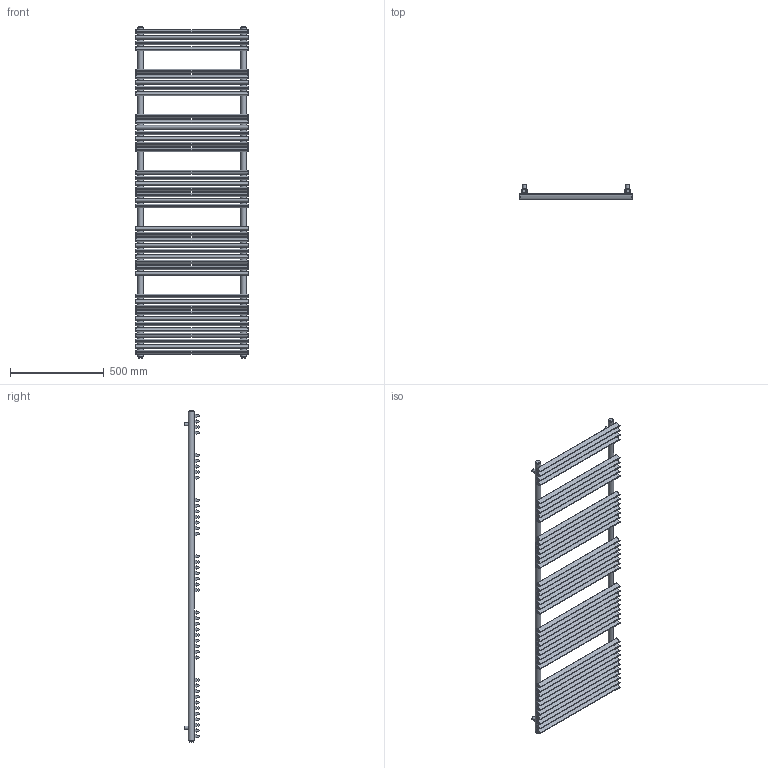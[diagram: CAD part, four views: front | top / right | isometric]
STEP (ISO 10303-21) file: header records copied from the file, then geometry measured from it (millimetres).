
FILE_DESCRIPTION(/* description */ (''),/* implementation_level */ '2;1');
FILE_NAME(/* name */ 'C:\Grzejniki\13DLUXRAD\łazienkowe\CALIDO\CALIDO 1760x600.iam.stp',/* time_stamp */ '2016-06-28T17:34:25+02:00',/* author */ ('m.szydziak'),/* organization */ (''),/* preprocessor_version */ 'ST-DEVELOPER v16.5',/* originating_system */ 'Autodesk Inventor 2017',/* authorisation */ '');
FILE_SCHEMA (('AUTOMOTIVE_DESIGN { 1 0 10303 214 3 1 1 }'));
Length unit declared in the file: millimetre
Products named in the file (5): CALIDO 1760x600; fi30x1,5x1760; 30x20x1,2x600; uchwyt stały; korek
Assembly tree (53 placements, depth 2):
  CALIDO 1760x600
    fi30x1,5x1760  x2
    30x20x1,2x600  x43
    uchwyt stały  x4
    korek  x4
Bounding box: 600 x 81.97 x 1772 mm (x, y, z)
Volume: 2864757.3 mm3; surface area: 4608124.9 mm2
Topology: 53 solids, 53 shells, 866 faces, 2360 edges, 1690 vertices
Faces by surface type: cylinder 622, plane 244
Full cylindrical faces by diameter (mm): 5 x86, 6 x86, 15 x4, 18 x4, 18.631 x4, 24 x4, 27 x2, 30 x2
Entity records: 6250 total; most frequent: CARTESIAN_POINT 3610, ORIENTED_EDGE 428, DIRECTION 412, EDGE_LOOP 234, EDGE_CURVE 214, VERTEX_POINT 192, AXIS2_PLACEMENT_3D 189, FACE_BOUND 148
